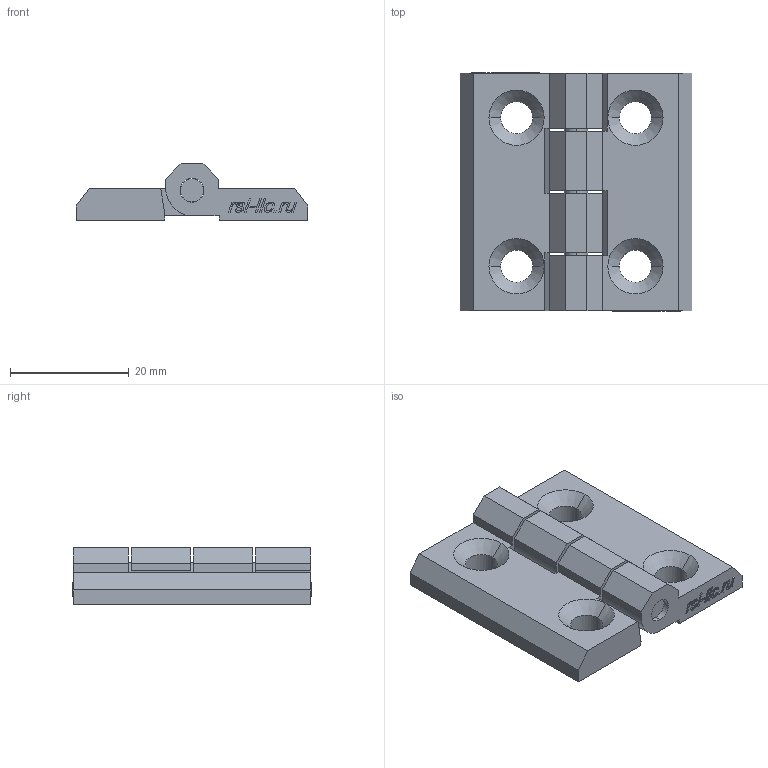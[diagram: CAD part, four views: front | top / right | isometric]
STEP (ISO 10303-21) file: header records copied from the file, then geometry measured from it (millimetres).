
FILE_DESCRIPTION (( 'STEP AP214' ), '1' );
FILE_NAME ('3024.STEP', '2020-10-09T10:44:16', ( '' ), ( '' ), 'SwSTEP 2.0', 'SolidWorks 2018', '' );
FILE_SCHEMA (( 'AUTOMOTIVE_DESIGN' ));
Length unit declared in the file: millimetre
Products named in the file (3): 3024-03; 3024-01; 3024
Assembly tree (3 placements, depth 2):
  3024
    3024-01  x2
    3024-03
Bounding box: 39 x 40.2 x 9.51 mm (x, y, z)
Volume: 6451.4 mm3; surface area: 6295.9 mm2
Topology: 3 solids, 3 shells, 288 faces, 766 edges, 508 vertices
Faces by surface type: plane 186, bspline 64, cylinder 22, cone 16
Entity records: 7426 total; most frequent: CARTESIAN_POINT 2830, ORIENTED_EDGE 772, DIRECTION 594, EDGE_CURVE 386, VECTOR 282, LINE 282, VERTEX_POINT 256, EDGE_LOOP 166
